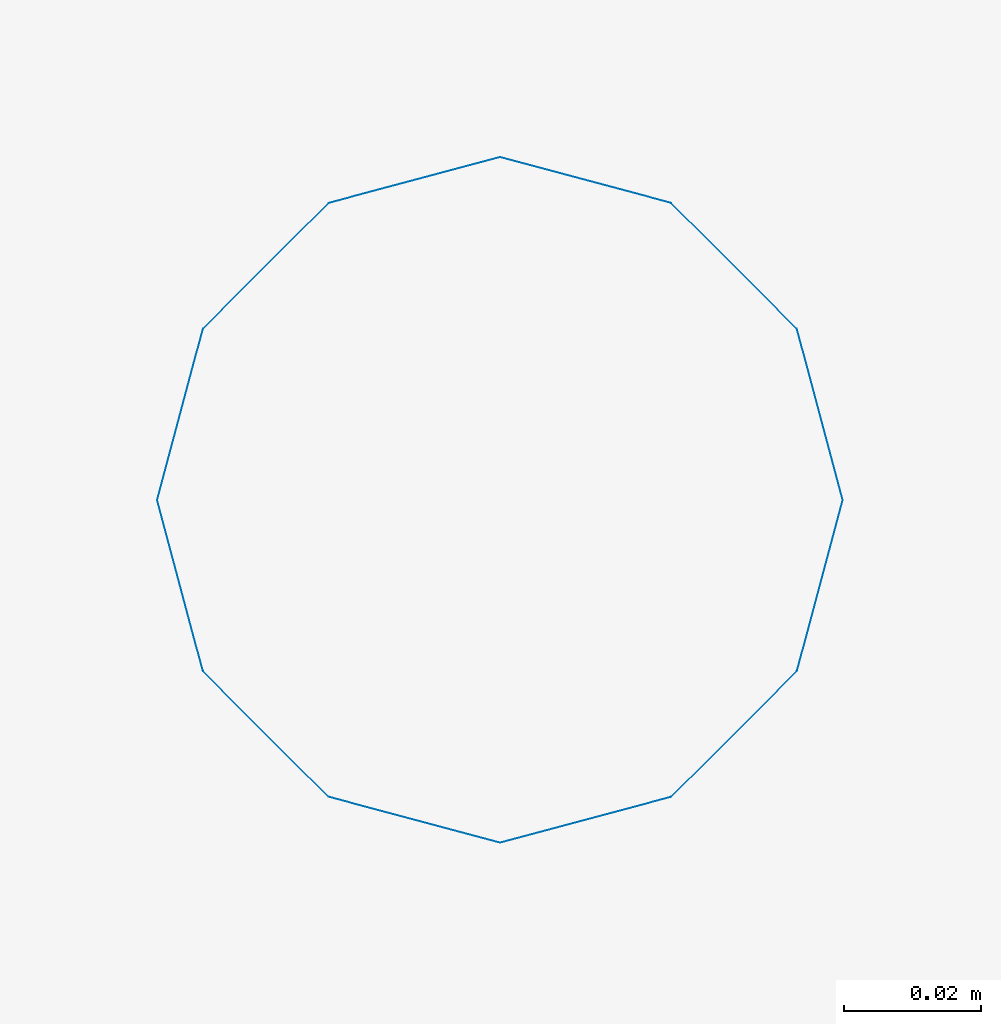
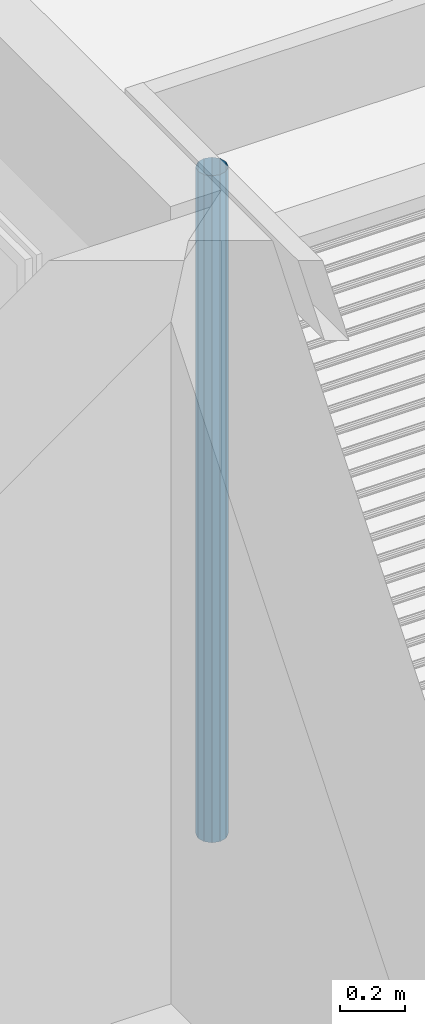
# One storey, part 116 of 171: 1 discrete accessory.
"""IFC2X3 building model written with IfcOpenShell, lengths in millimetres."""

from ifc_helpers import new_model, entity, si_unit, converted_unit, derived_unit, money_unit, direction, frame, origin_with_axes, place, context, subcontext, project, spatial, open_shell, surface_model, type_object, element, save


model = new_model("IFC2X3")

# Units and contexts
model_context = context("Model", 3, precision=0.01, world=origin_with_axes(), true_north=direction((0.0, 1.0)))
body_context = subcontext(model_context, "Body", "Model", "MODEL_VIEW")
ifc_project = project(units=[si_unit("LENGTHUNIT", "METRE", prefix="MILLI"), si_unit("AREAUNIT", "SQUARE_METRE"), si_unit("VOLUMEUNIT", "CUBIC_METRE"), converted_unit("PLANEANGLEUNIT", "DEGREE", entity("IfcPlaneAngleMeasure", 0.0174532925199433), si_unit("PLANEANGLEUNIT", "RADIAN"), dimensions=[0, 0, 0, 0, 0, 0, 0]), money_unit("USD"), converted_unit("TIMEUNIT", "Year", entity("IfcTimeMeasure", 31557600.0), si_unit("TIMEUNIT", "SECOND"), dimensions=[0, 0, 1, 0, 0, 0, 0]), si_unit("MASSUNIT", "GRAM", prefix="KILO"), si_unit("THERMODYNAMICTEMPERATUREUNIT", "DEGREE_CELSIUS"), si_unit("LUMINOUSINTENSITYUNIT", "LUMEN"), si_unit("ENERGYUNIT", "JOULE", prefix="MEGA"), derived_unit("THERMALCONDUCTANCEUNIT", [(si_unit("POWERUNIT", "WATT"), 1), (si_unit("LENGTHUNIT", "METRE"), -1), (si_unit("THERMODYNAMICTEMPERATUREUNIT", "KELVIN"), -1)]), derived_unit("SPECIFICHEATCAPACITYUNIT", [(si_unit("ENERGYUNIT", "JOULE"), 1), (si_unit("MASSUNIT", "GRAM", prefix="KILO"), -1), (si_unit("THERMODYNAMICTEMPERATUREUNIT", "KELVIN"), -1)]), derived_unit("MASSDENSITYUNIT", [(si_unit("MASSUNIT", "GRAM", prefix="KILO"), 1), (si_unit("VOLUMEUNIT", "CUBIC_METRE"), -1)])], contexts=[model_context])

# Site, building, storey
site_placement = place(None, origin_with_axes())
site = spatial("IfcSite", under=ifc_project, at=site_placement, Name="Site", CompositionType="ELEMENT")
building_placement = place(site_placement, origin_with_axes())
building = spatial("IfcBuilding", under=site, at=building_placement, Name="Bâtiment", CompositionType="ELEMENT")
storey_placement = place(building_placement, frame((0.0, 0.0, 3000.0), z_axis=(0.0, 0.0, 1.0), x_axis=(1.0, 0.0, 0.0)))
storey = spatial("IfcBuildingStorey", under=building, at=storey_placement, Name="rdc", CompositionType="ELEMENT", Elevation=3000.0)

# Discrete accessory
discrete_accessory_type = type_object("IfcDiscreteAccessoryType", Name="Tuyau descente 27")
discrete_accessory_placement = place(storey_placement, frame((2229876.140643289, -631889.5623799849, 0.0), z_axis=(0.0, 0.0, 1.0), x_axis=(1.0, 0.0, 0.0)))
element("IfcDiscreteAccessory", 1, at=discrete_accessory_placement, inside=storey, type_object=discrete_accessory_type, Name="Obj.-318", context=body_context, shape_type="SurfaceModel", body=[
    surface_model("IfcShellBasedSurfaceModel", [(50.0, 0.0, 2490.0), (43.30127018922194, -25.0, 2490.0), (43.30127018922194, -25.0, 0.0), (50.0, 0.0, 0.0), (25.00000000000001, -43.30127018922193, 2490.0), (25.00000000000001, -43.30127018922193, 0.0), (43.30127018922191, 25.00000000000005, 2490.0), (43.30127018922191, 25.00000000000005, 0.0), (0.0, -50.0, 2490.0), (0.0, -50.0, 0.0), (24.99999999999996, 43.30127018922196, 2490.0), (24.99999999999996, 43.30127018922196, 0.0), (-24.99999999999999, -43.30127018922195, 2490.0), (-24.99999999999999, -43.30127018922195, 0.0), (0.0, 50.0, 2490.0), (0.0, 50.0, 0.0), (-43.30127018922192, -25.00000000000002, 2490.0), (-43.30127018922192, -25.00000000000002, 0.0), (-25.00000000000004, 43.30127018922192, 2490.0), (-25.00000000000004, 43.30127018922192, 0.0), (-50.0, 0.0, 2490.0), (-50.0, 0.0, 0.0), (-43.30127018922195, 24.99999999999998, 2490.0), (-43.30127018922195, 24.99999999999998, 0.0)], [open_shell([[[0, 1, 2, 3]], [[1, 4, 5, 2]], [[6, 0, 3, 7]], [[4, 8, 9, 5]], [[10, 6, 7, 11]], [[8, 12, 13, 9]], [[14, 10, 11, 15]], [[12, 16, 17, 13]], [[18, 14, 15, 19]], [[16, 20, 21, 17]], [[22, 18, 19, 23]], [[20, 22, 23, 21]]])]),
])

save(model, "model.ifc")
